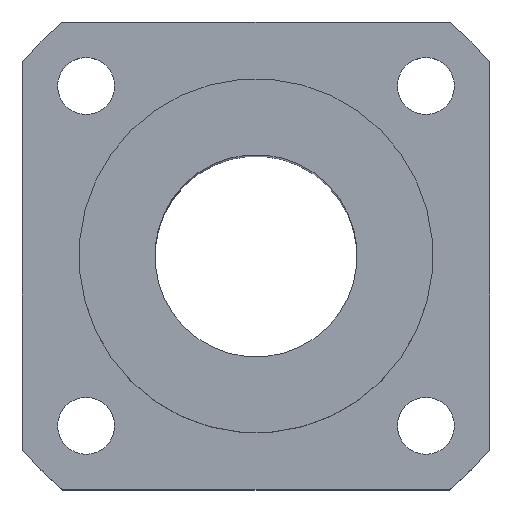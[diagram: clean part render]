
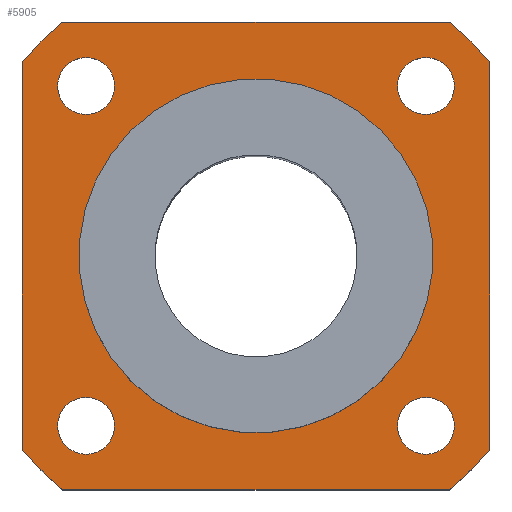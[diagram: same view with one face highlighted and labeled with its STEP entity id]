
A CAD part, top view. The second image highlights one B-rep face of the part: STEP entity #5905.
In plain terms, the highlighted planar face has unit normal (0, 0, 1).
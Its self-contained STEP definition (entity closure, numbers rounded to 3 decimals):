
#113=CIRCLE('',#6273,24.);
#114=CIRCLE('',#6275,24.);
#115=CIRCLE('',#6277,24.);
#116=CIRCLE('',#6279,24.);
#117=CIRCLE('',#6281,2.25);
#118=CIRCLE('',#6282,2.25);
#119=CIRCLE('',#6283,2.25);
#120=CIRCLE('',#6284,2.25);
#121=CIRCLE('',#6285,14.);
#544=ORIENTED_EDGE('',*,*,#2248,.F.);
#545=ORIENTED_EDGE('',*,*,#2249,.F.);
#546=ORIENTED_EDGE('',*,*,#2250,.F.);
#547=ORIENTED_EDGE('',*,*,#2251,.F.);
#548=ORIENTED_EDGE('',*,*,#2252,.T.);
#549=ORIENTED_EDGE('',*,*,#2240,.T.);
#550=ORIENTED_EDGE('',*,*,#2253,.T.);
#551=ORIENTED_EDGE('',*,*,#2236,.T.);
#552=ORIENTED_EDGE('',*,*,#2254,.T.);
#553=ORIENTED_EDGE('',*,*,#2246,.T.);
#554=ORIENTED_EDGE('',*,*,#2255,.T.);
#555=ORIENTED_EDGE('',*,*,#2243,.T.);
#556=ORIENTED_EDGE('',*,*,#2256,.T.);
#2236=EDGE_CURVE('',#3090,#3091,#113,.T.);
#2240=EDGE_CURVE('',#3093,#3092,#114,.T.);
#2243=EDGE_CURVE('',#3095,#3094,#115,.T.);
#2246=EDGE_CURVE('',#3097,#3096,#116,.T.);
#2248=EDGE_CURVE('',#3098,#3098,#117,.T.);
#2249=EDGE_CURVE('',#3099,#3099,#118,.T.);
#2250=EDGE_CURVE('',#3100,#3100,#119,.T.);
#2251=EDGE_CURVE('',#3101,#3101,#120,.T.);
#2252=EDGE_CURVE('',#3102,#3102,#121,.F.);
#2253=EDGE_CURVE('',#3092,#3090,#3613,.T.);
#2254=EDGE_CURVE('',#3091,#3097,#3614,.T.);
#2255=EDGE_CURVE('',#3096,#3095,#3615,.T.);
#2256=EDGE_CURVE('',#3094,#3093,#3616,.T.);
#3090=VERTEX_POINT('',#9302);
#3091=VERTEX_POINT('',#9303);
#3092=VERTEX_POINT('',#9308);
#3093=VERTEX_POINT('',#9310);
#3094=VERTEX_POINT('',#9314);
#3095=VERTEX_POINT('',#9316);
#3096=VERTEX_POINT('',#9320);
#3097=VERTEX_POINT('',#9322);
#3098=VERTEX_POINT('',#9326);
#3099=VERTEX_POINT('',#9328);
#3100=VERTEX_POINT('',#9330);
#3101=VERTEX_POINT('',#9332);
#3102=VERTEX_POINT('',#9334);
#3613=LINE('',#9335,#4305);
#3614=LINE('',#9336,#4306);
#3615=LINE('',#9337,#4307);
#3616=LINE('',#9338,#4308);
#4305=VECTOR('',#6844,1000.);
#4306=VECTOR('',#6845,1000.);
#4307=VECTOR('',#6846,1000.);
#4308=VECTOR('',#6847,1000.);
#4836=EDGE_LOOP('',(#544));
#4837=EDGE_LOOP('',(#545));
#4838=EDGE_LOOP('',(#546));
#4839=EDGE_LOOP('',(#547));
#4840=EDGE_LOOP('',(#548));
#4841=EDGE_LOOP('',(#549,#550,#551,#552,#553,#554,#555,#556));
#5260=FACE_BOUND('',#4836,.T.);
#5261=FACE_BOUND('',#4837,.T.);
#5262=FACE_BOUND('',#4838,.T.);
#5263=FACE_BOUND('',#4839,.T.);
#5264=FACE_BOUND('',#4840,.T.);
#5265=FACE_BOUND('',#4841,.T.);
#5636=PLANE('',#6280);
#5905=ADVANCED_FACE('',(#5260,#5261,#5262,#5263,#5264,#5265),#5636,.T.);
#6273=AXIS2_PLACEMENT_3D('',#9301,#6810,#6811);
#6275=AXIS2_PLACEMENT_3D('',#9309,#6817,#6818);
#6277=AXIS2_PLACEMENT_3D('',#9315,#6823,#6824);
#6279=AXIS2_PLACEMENT_3D('',#9321,#6829,#6830);
#6280=AXIS2_PLACEMENT_3D('',#9324,#6832,#6833);
#6281=AXIS2_PLACEMENT_3D('',#9325,#6834,#6835);
#6282=AXIS2_PLACEMENT_3D('',#9327,#6836,#6837);
#6283=AXIS2_PLACEMENT_3D('',#9329,#6838,#6839);
#6284=AXIS2_PLACEMENT_3D('',#9331,#6840,#6841);
#6285=AXIS2_PLACEMENT_3D('',#9333,#6842,#6843);
#6810=DIRECTION('',(0.,0.,1.));
#6811=DIRECTION('',(0.707,-0.707,0.));
#6817=DIRECTION('',(0.,0.,1.));
#6818=DIRECTION('',(0.707,-0.707,0.));
#6823=DIRECTION('',(0.,0.,1.));
#6824=DIRECTION('',(0.707,-0.707,0.));
#6829=DIRECTION('',(0.,0.,1.));
#6830=DIRECTION('',(0.707,-0.707,0.));
#6832=DIRECTION('',(0.,0.,1.));
#6833=DIRECTION('',(0.707,-0.707,0.));
#6834=DIRECTION('',(0.,0.,1.));
#6835=DIRECTION('',(0.707,-0.707,0.));
#6836=DIRECTION('',(0.,0.,1.));
#6837=DIRECTION('',(0.707,-0.707,0.));
#6838=DIRECTION('',(0.,0.,1.));
#6839=DIRECTION('',(0.707,-0.707,0.));
#6840=DIRECTION('',(0.,0.,1.));
#6841=DIRECTION('',(0.707,-0.707,0.));
#6842=DIRECTION('',(0.,0.,1.));
#6843=DIRECTION('',(0.707,-0.707,0.));
#6844=DIRECTION('',(0.,-1.,0.));
#6845=DIRECTION('',(1.,0.,0.));
#6846=DIRECTION('',(0.,1.,0.));
#6847=DIRECTION('',(-1.,0.,0.));
#9301=CARTESIAN_POINT('',(0.,0.,0.));
#9302=CARTESIAN_POINT('',(-18.5,-15.289,0.));
#9303=CARTESIAN_POINT('',(-15.289,-18.5,0.));
#9308=CARTESIAN_POINT('',(-18.5,15.289,0.));
#9309=CARTESIAN_POINT('',(0.,0.,0.));
#9310=CARTESIAN_POINT('',(-15.289,18.5,0.));
#9314=CARTESIAN_POINT('',(15.289,18.5,0.));
#9315=CARTESIAN_POINT('',(0.,0.,0.));
#9316=CARTESIAN_POINT('',(18.5,15.289,0.));
#9320=CARTESIAN_POINT('',(18.5,-15.289,0.));
#9321=CARTESIAN_POINT('',(0.,0.,0.));
#9322=CARTESIAN_POINT('',(15.289,-18.5,0.));
#9324=CARTESIAN_POINT('',(0.,0.,0.));
#9325=CARTESIAN_POINT('',(13.435,13.435,0.));
#9326=CARTESIAN_POINT('',(15.026,11.844,0.));
#9327=CARTESIAN_POINT('',(-13.435,13.435,0.));
#9328=CARTESIAN_POINT('',(-11.844,11.844,0.));
#9329=CARTESIAN_POINT('',(-13.435,-13.435,0.));
#9330=CARTESIAN_POINT('',(-11.844,-15.026,0.));
#9331=CARTESIAN_POINT('',(13.435,-13.435,0.));
#9332=CARTESIAN_POINT('',(15.026,-15.026,0.));
#9333=CARTESIAN_POINT('',(0.,0.,0.));
#9334=CARTESIAN_POINT('',(9.899,-9.899,0.));
#9335=CARTESIAN_POINT('',(-18.5,0.,0.));
#9336=CARTESIAN_POINT('',(0.,-18.5,0.));
#9337=CARTESIAN_POINT('',(18.5,0.,0.));
#9338=CARTESIAN_POINT('',(0.,18.5,0.));
